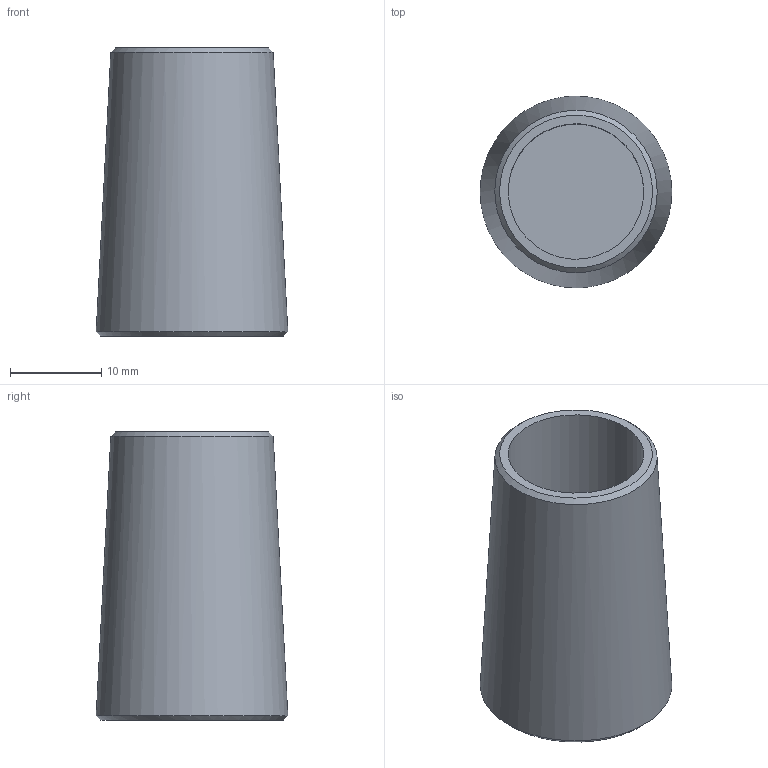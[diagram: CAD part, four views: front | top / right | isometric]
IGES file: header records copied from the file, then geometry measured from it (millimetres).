
Global section: file name: 520-014-KMU; native system: Autodesk Inventor 2016; preprocessor: unknown; author: BAYR; date: 20200618.122306; units: millimetre
Bounding box: 20.95 x 20.95 x 31.5 mm (x, y, z)
Volume: 5057 mm3; surface area: 3613.7 mm2
Topology: 1 solids, 1 shells, 7 faces, 14 edges, 10 vertices
Faces by surface type: bspline 7
